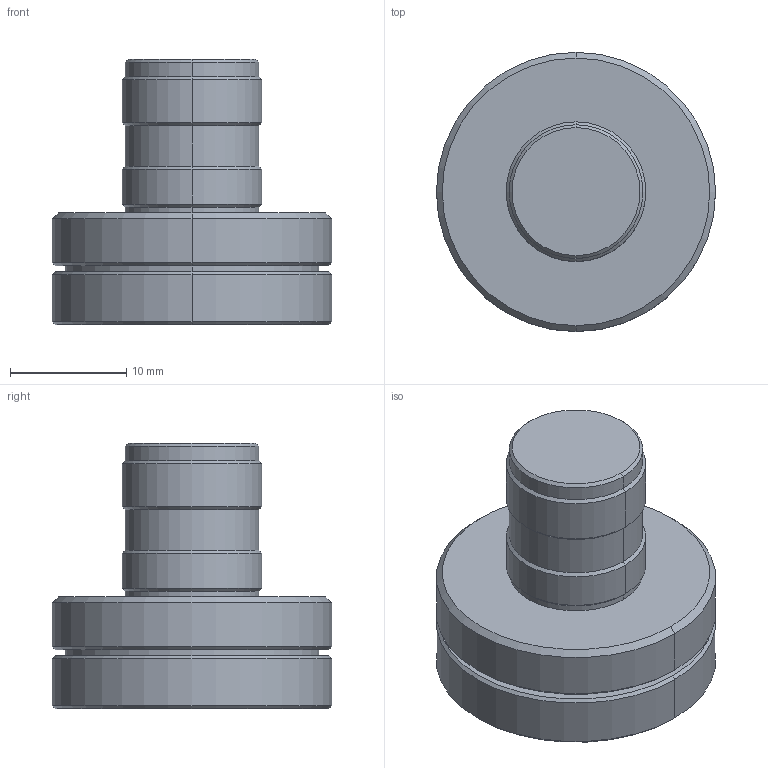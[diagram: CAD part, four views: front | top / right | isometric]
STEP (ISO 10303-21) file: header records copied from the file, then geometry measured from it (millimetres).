
FILE_DESCRIPTION(/* description */ ('VariCAD 2010-1.04 AP-203'),/* implementation_level */ '2;1');
FILE_NAME(/* name */ '0353-70-48',/* time_stamp */ '2010-01-14T00:05:54-07:00',/* author */ (''),/* organization */ (''),/* preprocessor_version */ 'ST-DEVELOPER v12',/* originating_system */ 'VariCAD 2010-1.04; kernel version (20090520)',/* authorisation */ '');
FILE_SCHEMA (('CONFIG_CONTROL_DESIGN'));
Length unit declared in the file: millimetre
Products named in the file (1): Part
Bounding box: 24 x 24 x 22.8 mm (x, y, z)
Volume: 5272.1 mm3; surface area: 2393.2 mm2
Topology: 1 solids, 1 shells, 52 faces, 104 edges, 59 vertices
Faces by surface type: cylinder 24, cone 18, plane 8, sphere 2
Entity records: 1376 total; most frequent: DIRECTION 270, CARTESIAN_POINT 215, ORIENTED_EDGE 204, AXIS2_PLACEMENT_3D 114, EDGE_CURVE 102, CIRCLE 60, EDGE_LOOP 59, VERTEX_POINT 59
